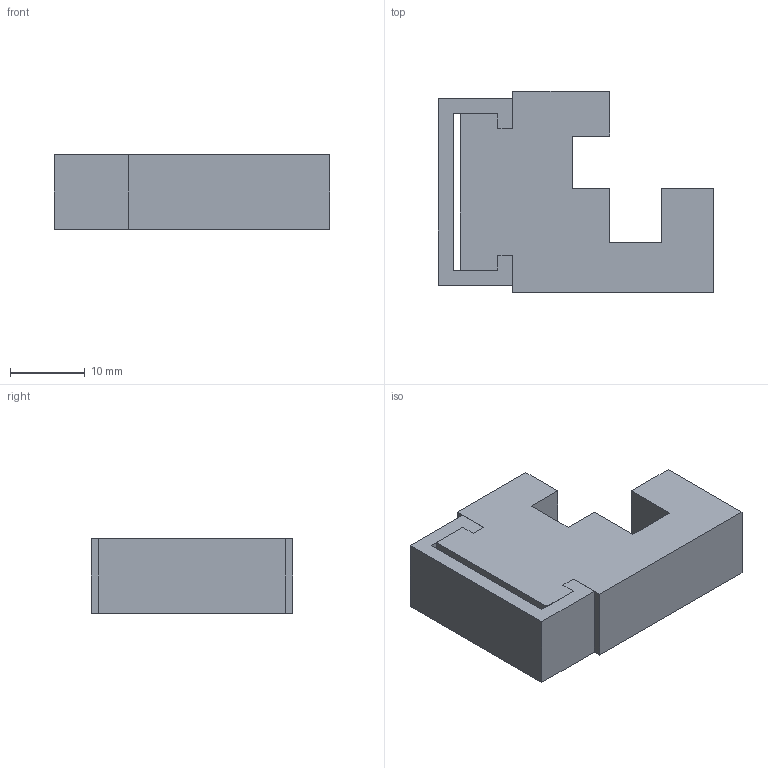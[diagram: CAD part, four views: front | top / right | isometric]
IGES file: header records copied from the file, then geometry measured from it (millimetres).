
Start section: SolidWorks IGES file using analytic representation for surfaces
Global section: file name: C:\Documents and Settings\ARGE\Desktop\yeni katalog tolgay düzenli\E kataloðu\ALPOLEN 1000 GH2 SIRALI ZÝNCÝR KIZAKLARI\207 GH2 P27.IGS; native system: SolidWorks 2006 by SolidWorks Corporation; preprocessor: SolidWorks 2006 by SolidWorks Corporation; author: ARGE2; date: 060912.175338; units: millimetre
Bounding box: 37 x 27 x 10 mm (x, y, z)
Surface area: 3865.8 mm2 (no closed solid volume)
Topology: 0 solids, 0 shells, 36 faces, 192 edges, 192 vertices
Faces by surface type: bspline 36
